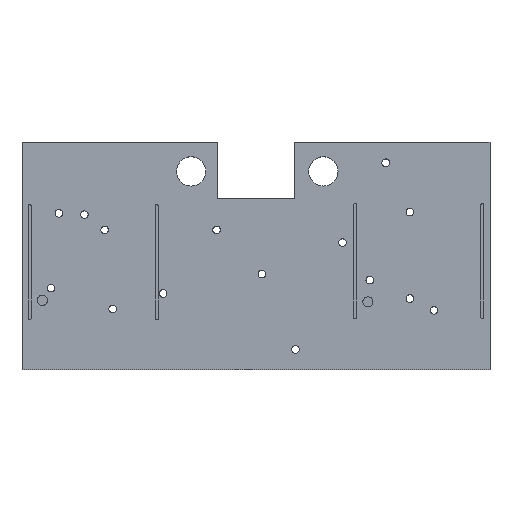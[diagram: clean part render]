
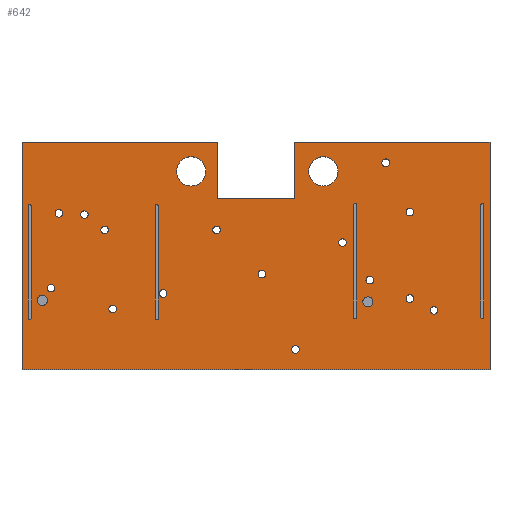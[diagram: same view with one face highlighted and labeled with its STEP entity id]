
A CAD part, top view. The second image highlights one B-rep face of the part: STEP entity #642.
In plain terms, the highlighted planar face has unit normal (0, 0, 1).
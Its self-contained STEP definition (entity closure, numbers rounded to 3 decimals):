
#311 = VERTEX_POINT('',#312);
#312 = CARTESIAN_POINT('',(103.73,-50.47,1.51));
#318 = EDGE_CURVE('',#311,#319,#321,.T.);
#319 = VERTEX_POINT('',#320);
#320 = CARTESIAN_POINT('',(106.77,-50.47,1.51));
#321 = LINE('',#322,#323);
#322 = CARTESIAN_POINT('',(103.73,-50.47,1.51));
#323 = VECTOR('',#324,1.);
#324 = DIRECTION('',(1.,0.,0.));
#351 = VERTEX_POINT('',#352);
#352 = CARTESIAN_POINT('',(103.73,-48.25,1.51));
#358 = EDGE_CURVE('',#351,#311,#359,.T.);
#359 = LINE('',#360,#361);
#360 = CARTESIAN_POINT('',(103.73,-48.25,1.51));
#361 = VECTOR('',#362,1.);
#362 = DIRECTION('',(0.,-1.,0.));
#380 = EDGE_CURVE('',#319,#381,#383,.T.);
#381 = VERTEX_POINT('',#382);
#382 = CARTESIAN_POINT('',(106.77,-48.25,1.51));
#383 = LINE('',#384,#385);
#384 = CARTESIAN_POINT('',(106.77,-50.47,1.51));
#385 = VECTOR('',#386,1.);
#386 = DIRECTION('',(0.,1.,0.));
#642 = ADVANCED_FACE('',(#643,#686,#697,#708,#719,#730,#741,#752,#763,
    #774,#785,#796,#807,#818,#829,#840,#851,#862),#873,.T.);
#643 = FACE_BOUND('',#644,.T.);
#644 = EDGE_LOOP('',(#645,#646,#647,#655,#663,#671,#679,#685));
#645 = ORIENTED_EDGE('',*,*,#318,.F.);
#646 = ORIENTED_EDGE('',*,*,#358,.F.);
#647 = ORIENTED_EDGE('',*,*,#648,.F.);
#648 = EDGE_CURVE('',#649,#351,#651,.T.);
#649 = VERTEX_POINT('',#650);
#650 = CARTESIAN_POINT('',(96.05,-48.25,1.51));
#651 = LINE('',#652,#653);
#652 = CARTESIAN_POINT('',(96.05,-48.25,1.51));
#653 = VECTOR('',#654,1.);
#654 = DIRECTION('',(1.,0.,0.));
#655 = ORIENTED_EDGE('',*,*,#656,.F.);
#656 = EDGE_CURVE('',#657,#649,#659,.T.);
#657 = VERTEX_POINT('',#658);
#658 = CARTESIAN_POINT('',(96.05,-57.2,1.51));
#659 = LINE('',#660,#661);
#660 = CARTESIAN_POINT('',(96.05,-57.2,1.51));
#661 = VECTOR('',#662,1.);
#662 = DIRECTION('',(0.,1.,0.));
#663 = ORIENTED_EDGE('',*,*,#664,.F.);
#664 = EDGE_CURVE('',#665,#657,#667,.T.);
#665 = VERTEX_POINT('',#666);
#666 = CARTESIAN_POINT('',(114.45,-57.2,1.51));
#667 = LINE('',#668,#669);
#668 = CARTESIAN_POINT('',(114.45,-57.2,1.51));
#669 = VECTOR('',#670,1.);
#670 = DIRECTION('',(-1.,0.,0.));
#671 = ORIENTED_EDGE('',*,*,#672,.F.);
#672 = EDGE_CURVE('',#673,#665,#675,.T.);
#673 = VERTEX_POINT('',#674);
#674 = CARTESIAN_POINT('',(114.45,-48.25,1.51));
#675 = LINE('',#676,#677);
#676 = CARTESIAN_POINT('',(114.45,-48.25,1.51));
#677 = VECTOR('',#678,1.);
#678 = DIRECTION('',(0.,-1.,0.));
#679 = ORIENTED_EDGE('',*,*,#680,.F.);
#680 = EDGE_CURVE('',#381,#673,#681,.T.);
#681 = LINE('',#682,#683);
#682 = CARTESIAN_POINT('',(106.77,-48.25,1.51));
#683 = VECTOR('',#684,1.);
#684 = DIRECTION('',(1.,0.,0.));
#685 = ORIENTED_EDGE('',*,*,#380,.F.);
#686 = FACE_BOUND('',#687,.T.);
#687 = EDGE_LOOP('',(#688));
#688 = ORIENTED_EDGE('',*,*,#689,.T.);
#689 = EDGE_CURVE('',#690,#690,#692,.T.);
#690 = VERTEX_POINT('',#691);
#691 = CARTESIAN_POINT('',(99.618,-54.961,1.51));
#692 = CIRCLE('',#693,0.15);
#693 = AXIS2_PLACEMENT_3D('',#694,#695,#696);
#694 = CARTESIAN_POINT('',(99.618,-54.811,1.51));
#695 = DIRECTION('',(-0.,0.,-1.));
#696 = DIRECTION('',(0.,-1.,0.));
#697 = FACE_BOUND('',#698,.T.);
#698 = EDGE_LOOP('',(#699));
#699 = ORIENTED_EDGE('',*,*,#700,.T.);
#700 = EDGE_CURVE('',#701,#701,#703,.T.);
#701 = VERTEX_POINT('',#702);
#702 = CARTESIAN_POINT('',(97.191,-54.139,1.51));
#703 = CIRCLE('',#704,0.15);
#704 = AXIS2_PLACEMENT_3D('',#705,#706,#707);
#705 = CARTESIAN_POINT('',(97.191,-53.989,1.51));
#706 = DIRECTION('',(-0.,0.,-1.));
#707 = DIRECTION('',(0.,-1.,-0.));
#708 = FACE_BOUND('',#709,.T.);
#709 = EDGE_LOOP('',(#710));
#710 = ORIENTED_EDGE('',*,*,#711,.T.);
#711 = EDGE_CURVE('',#712,#712,#714,.T.);
#712 = VERTEX_POINT('',#713);
#713 = CARTESIAN_POINT('',(101.6,-54.35,1.51));
#714 = CIRCLE('',#715,0.15);
#715 = AXIS2_PLACEMENT_3D('',#716,#717,#718);
#716 = CARTESIAN_POINT('',(101.6,-54.2,1.51));
#717 = DIRECTION('',(-0.,0.,-1.));
#718 = DIRECTION('',(-0.,-1.,0.));
#719 = FACE_BOUND('',#720,.T.);
#720 = EDGE_LOOP('',(#721));
#721 = ORIENTED_EDGE('',*,*,#722,.T.);
#722 = EDGE_CURVE('',#723,#723,#725,.T.);
#723 = VERTEX_POINT('',#724);
#724 = CARTESIAN_POINT('',(106.8,-56.55,1.51));
#725 = CIRCLE('',#726,0.15);
#726 = AXIS2_PLACEMENT_3D('',#727,#728,#729);
#727 = CARTESIAN_POINT('',(106.8,-56.4,1.51));
#728 = DIRECTION('',(-0.,0.,-1.));
#729 = DIRECTION('',(0.,-1.,0.));
#730 = FACE_BOUND('',#731,.T.);
#731 = EDGE_LOOP('',(#732));
#732 = ORIENTED_EDGE('',*,*,#733,.T.);
#733 = EDGE_CURVE('',#734,#734,#736,.T.);
#734 = VERTEX_POINT('',#735);
#735 = CARTESIAN_POINT('',(112.25,-55.01,1.51));
#736 = CIRCLE('',#737,0.15);
#737 = AXIS2_PLACEMENT_3D('',#738,#739,#740);
#738 = CARTESIAN_POINT('',(112.25,-54.86,1.51));
#739 = DIRECTION('',(-0.,0.,-1.));
#740 = DIRECTION('',(-0.,-1.,0.));
#741 = FACE_BOUND('',#742,.T.);
#742 = EDGE_LOOP('',(#743));
#743 = ORIENTED_EDGE('',*,*,#744,.T.);
#744 = EDGE_CURVE('',#745,#745,#747,.T.);
#745 = VERTEX_POINT('',#746);
#746 = CARTESIAN_POINT('',(105.479,-53.589,1.51));
#747 = CIRCLE('',#748,0.15);
#748 = AXIS2_PLACEMENT_3D('',#749,#750,#751);
#749 = CARTESIAN_POINT('',(105.479,-53.439,1.51));
#750 = DIRECTION('',(-0.,0.,-1.));
#751 = DIRECTION('',(0.,-1.,0.));
#752 = FACE_BOUND('',#753,.T.);
#753 = EDGE_LOOP('',(#754));
#754 = ORIENTED_EDGE('',*,*,#755,.T.);
#755 = EDGE_CURVE('',#756,#756,#758,.T.);
#756 = VERTEX_POINT('',#757);
#757 = CARTESIAN_POINT('',(109.724,-53.826,1.51));
#758 = CIRCLE('',#759,0.15);
#759 = AXIS2_PLACEMENT_3D('',#760,#761,#762);
#760 = CARTESIAN_POINT('',(109.724,-53.676,1.51));
#761 = DIRECTION('',(-0.,0.,-1.));
#762 = DIRECTION('',(0.,-1.,-0.));
#763 = FACE_BOUND('',#764,.T.);
#764 = EDGE_LOOP('',(#765));
#765 = ORIENTED_EDGE('',*,*,#766,.T.);
#766 = EDGE_CURVE('',#767,#767,#769,.T.);
#767 = VERTEX_POINT('',#768);
#768 = CARTESIAN_POINT('',(111.3,-54.55,1.51));
#769 = CIRCLE('',#770,0.15);
#770 = AXIS2_PLACEMENT_3D('',#771,#772,#773);
#771 = CARTESIAN_POINT('',(111.3,-54.4,1.51));
#772 = DIRECTION('',(-0.,0.,-1.));
#773 = DIRECTION('',(0.,-1.,0.));
#774 = FACE_BOUND('',#775,.T.);
#775 = EDGE_LOOP('',(#776));
#776 = ORIENTED_EDGE('',*,*,#777,.T.);
#777 = EDGE_CURVE('',#778,#778,#780,.T.);
#778 = VERTEX_POINT('',#779);
#779 = CARTESIAN_POINT('',(97.5,-51.2,1.51));
#780 = CIRCLE('',#781,0.15);
#781 = AXIS2_PLACEMENT_3D('',#782,#783,#784);
#782 = CARTESIAN_POINT('',(97.5,-51.05,1.51));
#783 = DIRECTION('',(-0.,0.,-1.));
#784 = DIRECTION('',(-0.,-1.,0.));
#785 = FACE_BOUND('',#786,.T.);
#786 = EDGE_LOOP('',(#787));
#787 = ORIENTED_EDGE('',*,*,#788,.T.);
#788 = EDGE_CURVE('',#789,#789,#791,.T.);
#789 = VERTEX_POINT('',#790);
#790 = CARTESIAN_POINT('',(98.5,-51.25,1.51));
#791 = CIRCLE('',#792,0.15);
#792 = AXIS2_PLACEMENT_3D('',#793,#794,#795);
#793 = CARTESIAN_POINT('',(98.5,-51.1,1.51));
#794 = DIRECTION('',(-0.,0.,-1.));
#795 = DIRECTION('',(-0.,-1.,0.));
#796 = FACE_BOUND('',#797,.T.);
#797 = EDGE_LOOP('',(#798));
#798 = ORIENTED_EDGE('',*,*,#799,.T.);
#799 = EDGE_CURVE('',#800,#800,#802,.T.);
#800 = VERTEX_POINT('',#801);
#801 = CARTESIAN_POINT('',(99.3,-51.85,1.51));
#802 = CIRCLE('',#803,0.15);
#803 = AXIS2_PLACEMENT_3D('',#804,#805,#806);
#804 = CARTESIAN_POINT('',(99.3,-51.7,1.51));
#805 = DIRECTION('',(-0.,0.,-1.));
#806 = DIRECTION('',(0.,-1.,0.));
#807 = FACE_BOUND('',#808,.T.);
#808 = EDGE_LOOP('',(#809));
#809 = ORIENTED_EDGE('',*,*,#810,.T.);
#810 = EDGE_CURVE('',#811,#811,#813,.T.);
#811 = VERTEX_POINT('',#812);
#812 = CARTESIAN_POINT('',(103.7,-51.85,1.51));
#813 = CIRCLE('',#814,0.15);
#814 = AXIS2_PLACEMENT_3D('',#815,#816,#817);
#815 = CARTESIAN_POINT('',(103.7,-51.7,1.51));
#816 = DIRECTION('',(-0.,0.,-1.));
#817 = DIRECTION('',(0.,-1.,-0.));
#818 = FACE_BOUND('',#819,.T.);
#819 = EDGE_LOOP('',(#820));
#820 = ORIENTED_EDGE('',*,*,#821,.T.);
#821 = EDGE_CURVE('',#822,#822,#824,.T.);
#822 = VERTEX_POINT('',#823);
#823 = CARTESIAN_POINT('',(102.7,-49.976,1.51));
#824 = CIRCLE('',#825,0.576);
#825 = AXIS2_PLACEMENT_3D('',#826,#827,#828);
#826 = CARTESIAN_POINT('',(102.7,-49.4,1.51));
#827 = DIRECTION('',(-0.,0.,-1.));
#828 = DIRECTION('',(0.,-1.,-0.));
#829 = FACE_BOUND('',#830,.T.);
#830 = EDGE_LOOP('',(#831));
#831 = ORIENTED_EDGE('',*,*,#832,.T.);
#832 = EDGE_CURVE('',#833,#833,#835,.T.);
#833 = VERTEX_POINT('',#834);
#834 = CARTESIAN_POINT('',(108.65,-52.35,1.51));
#835 = CIRCLE('',#836,0.15);
#836 = AXIS2_PLACEMENT_3D('',#837,#838,#839);
#837 = CARTESIAN_POINT('',(108.65,-52.2,1.51));
#838 = DIRECTION('',(-0.,0.,-1.));
#839 = DIRECTION('',(-0.,-1.,0.));
#840 = FACE_BOUND('',#841,.T.);
#841 = EDGE_LOOP('',(#842));
#842 = ORIENTED_EDGE('',*,*,#843,.T.);
#843 = EDGE_CURVE('',#844,#844,#846,.T.);
#844 = VERTEX_POINT('',#845);
#845 = CARTESIAN_POINT('',(111.3,-51.15,1.51));
#846 = CIRCLE('',#847,0.15);
#847 = AXIS2_PLACEMENT_3D('',#848,#849,#850);
#848 = CARTESIAN_POINT('',(111.3,-51.,1.51));
#849 = DIRECTION('',(-0.,0.,-1.));
#850 = DIRECTION('',(0.,-1.,0.));
#851 = FACE_BOUND('',#852,.T.);
#852 = EDGE_LOOP('',(#853));
#853 = ORIENTED_EDGE('',*,*,#854,.T.);
#854 = EDGE_CURVE('',#855,#855,#857,.T.);
#855 = VERTEX_POINT('',#856);
#856 = CARTESIAN_POINT('',(107.9,-49.976,1.51));
#857 = CIRCLE('',#858,0.576);
#858 = AXIS2_PLACEMENT_3D('',#859,#860,#861);
#859 = CARTESIAN_POINT('',(107.9,-49.4,1.51));
#860 = DIRECTION('',(-0.,0.,-1.));
#861 = DIRECTION('',(-0.,-1.,0.));
#862 = FACE_BOUND('',#863,.T.);
#863 = EDGE_LOOP('',(#864));
#864 = ORIENTED_EDGE('',*,*,#865,.T.);
#865 = EDGE_CURVE('',#866,#866,#868,.T.);
#866 = VERTEX_POINT('',#867);
#867 = CARTESIAN_POINT('',(110.35,-49.21,1.51));
#868 = CIRCLE('',#869,0.15);
#869 = AXIS2_PLACEMENT_3D('',#870,#871,#872);
#870 = CARTESIAN_POINT('',(110.35,-49.06,1.51));
#871 = DIRECTION('',(-0.,0.,-1.));
#872 = DIRECTION('',(-0.,-1.,0.));
#873 = PLANE('',#874);
#874 = AXIS2_PLACEMENT_3D('',#875,#876,#877);
#875 = CARTESIAN_POINT('',(0.,0.,1.51));
#876 = DIRECTION('',(0.,0.,1.));
#877 = DIRECTION('',(1.,0.,-0.));
